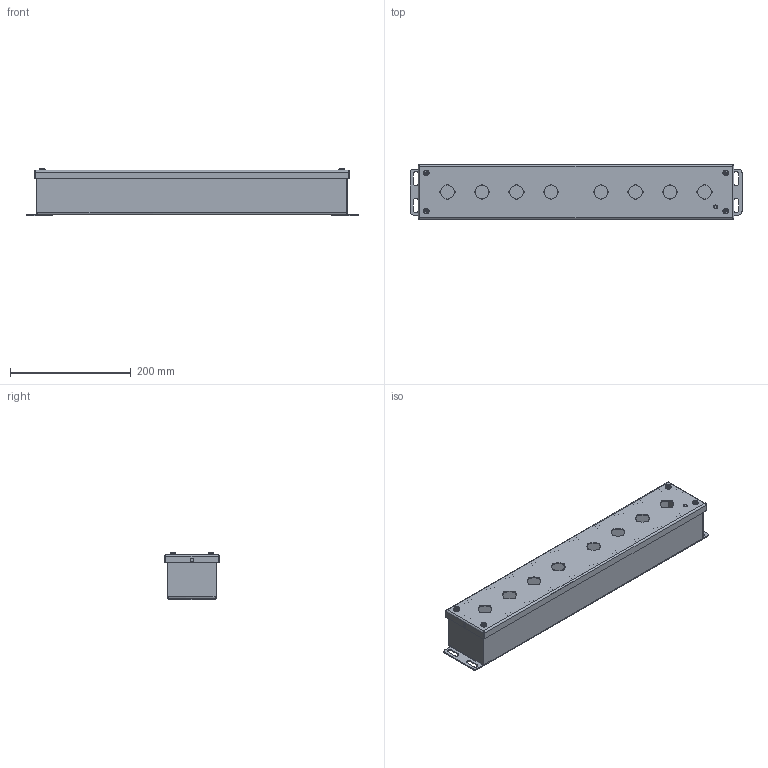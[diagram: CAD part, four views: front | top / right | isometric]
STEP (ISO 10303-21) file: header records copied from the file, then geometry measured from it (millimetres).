
FILE_DESCRIPTION((''),'2;1');
FILE_NAME('MODEL-335_ASM','2021-06-16T14:13:54',('chads'),('SAGINAW CONTROL & ENGINEERING'),'CREO PARAMETRIC BY PTC INC, 2017260','CREO PARAMETRIC BY PTC INC, 2017260','');
FILE_SCHEMA(('AUTOMOTIVE_DESIGN { 1 0 10303 214 1 1 1 1 }'));
Length unit declared in the file: inch
Products named in the file (10): MODEL-335-BDY; MODEL-335-DR; 100063; 102145; 101966; 100009; 100983; 102534; MODEL-335-GSKT; MODEL-335_ASM
Assembly tree (16 placements, depth 2):
  MODEL-335_ASM
    MODEL-335-BDY
    MODEL-335-DR
    100063
    102145  x2
    101966
    100009
    100983  x4
    102534  x4
    MODEL-335-GSKT
Bounding box: 549.27 x 90.49 x 79.34 mm (x, y, z)
Volume: 321366.5 mm3; surface area: 422193.9 mm2
Topology: 19 solids, 19 shells, 838 faces, 2127 edges, 1274 vertices
Faces by surface type: cylinder 352, plane 278, bspline 100, torus 80, cone 28
Entity records: 26115 total; most frequent: CARTESIAN_POINT 6137, DIRECTION 2867, ORIENTED_EDGE 2702, EDGE_CURVE 1351, PRESENTATION_STYLE_ASSIGNMENT 1263, STYLED_ITEM 1263, CURVE_STYLE 1187, AXIS2_PLACEMENT_3D 1081
